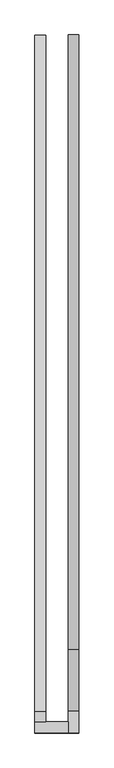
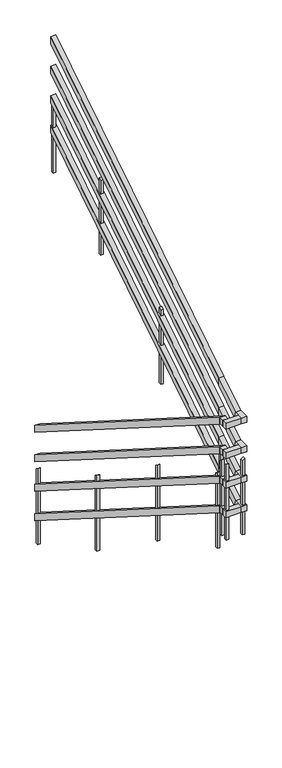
"""IFC4 building model written with IfcOpenShell, lengths in millimetres: railing geometry, RL780-금속재 난간."""

from ifc_helpers import new_model, si_unit, frame, origin, place, context, project, spatial, polyline, outline, extrude, faceted_brep, source, transform, mapped, element, save


def railing_632a0a5e(model_context):
    return source(origin(), model_context, "Body", "SolidModel", [
        faceted_brep([(1249.8430136, 5200.0, 16077.2727273), (1299.8430136, 5200.0, 16077.2727273), (1299.8430136, 5200.0, 16006.2585515), (1249.8430136, 5200.0, 16006.2585515), (1249.8430136, 2120.0, 18027.2727273), (1249.8430136, 2120.0, 17956.2585515), (1299.8430136, 2120.0, 17956.2585515), (1299.8430136, 2120.0, 18027.2727273)], [[[0, 1, 2, 3]], [[4, 5, 6, 7]], [[1, 0, 4, 7]], [[2, 1, 7, 6]], [[3, 2, 6, 5]], [[0, 3, 5, 4]]]),
        faceted_brep([(1249.8430136, 5200.0, 15777.2727273), (1299.8430136, 5200.0, 15777.2727273), (1299.8430136, 5200.0, 15706.2585515), (1249.8430136, 5200.0, 15706.2585515), (1249.8430136, 2120.0, 17727.2727273), (1249.8430136, 2120.0, 17656.2585515), (1299.8430136, 2120.0, 17656.2585515), (1299.8430136, 2120.0, 17727.2727273)], [[[0, 1, 2, 3]], [[4, 5, 6, 7]], [[1, 0, 4, 7]], [[2, 1, 7, 6]], [[3, 2, 6, 5]], [[0, 3, 5, 4]]]),
        faceted_brep([(1249.8430136, 5200.0, 15477.2727273), (1299.8430136, 5200.0, 15477.2727273), (1299.8430136, 5200.0, 15406.2585515), (1249.8430136, 5200.0, 15406.2585515), (1249.8430136, 2120.0, 17427.2727273), (1249.8430136, 2120.0, 17356.2585515), (1299.8430136, 2120.0, 17356.2585515), (1299.8430136, 2120.0, 17427.2727273)], [[[0, 1, 2, 3]], [[4, 5, 6, 7]], [[1, 0, 4, 7]], [[2, 1, 7, 6]], [[3, 2, 6, 5]], [[0, 3, 5, 4]]]),
        faceted_brep([(1249.8430136, 5200.0, 15177.2727273), (1299.8430136, 5200.0, 15177.2727273), (1299.8430136, 5200.0, 15106.2585515), (1249.8430136, 5200.0, 15106.2585515), (1249.8430136, 2120.0, 17127.2727273), (1249.8430136, 2120.0, 17056.2585515), (1299.8430136, 2120.0, 17056.2585515), (1299.8430136, 2120.0, 17127.2727273)], [[[0, 1, 2, 3]], [[4, 5, 6, 7]], [[1, 0, 4, 7]], [[2, 1, 7, 6]], [[3, 2, 6, 5]], [[0, 3, 5, 4]]]),
        faceted_brep([(1249.8430136, 2120.0, 18027.2727273), (1299.8430136, 2120.0, 18027.2727273), (1299.8430136, 2120.0, 17967.2727273), (1249.8430136, 2120.0, 17967.2727273), (1249.8430136, 2071.0869752, 18027.2727273), (1249.8430136, 2071.0869752, 17967.2727273), (1299.8430136, 2071.0869752, 17967.2727273), (1299.8430136, 2071.0869752, 18027.2727273)], [[[0, 1, 2, 3]], [[4, 5, 6, 7]], [[1, 0, 4, 7]], [[2, 1, 7, 6]], [[3, 2, 6, 5]], [[0, 3, 5, 4]]]),
        faceted_brep([(1249.8430136, 2021.0869752, 18027.2727273), (1249.8430136, 2071.0869752, 18027.2727273), (1249.8430136, 2071.0869752, 17967.2727273), (1249.8430136, 2021.0869752, 17967.2727273), (1400.6430136, 2021.0869752, 18027.2727273), (1400.6430136, 2021.0869752, 17967.2727273), (1400.6430136, 2071.0869752, 17967.2727273), (1400.6430136, 2071.0869752, 18027.2727273)], [[[0, 1, 2, 3]], [[4, 5, 6, 7]], [[1, 0, 4, 7]], [[2, 1, 7, 6]], [[3, 2, 6, 5]], [[0, 3, 5, 4]]]),
        faceted_brep([(1450.6430136, 2021.0869752, 18027.2727273), (1400.6430136, 2021.0869752, 18027.2727273), (1400.6430136, 2021.0869752, 17967.2727273), (1450.6430136, 2021.0869752, 17967.2727273), (1450.6430136, 2120.0, 18027.2727273), (1400.6430136, 2120.0, 18027.2727273), (1400.6430136, 2137.3967494, 17967.2727273), (1450.6430136, 2400.0, 18204.5454545), (1450.6430136, 2400.0, 18133.5312788), (1400.6430136, 2400.0, 18133.5312788), (1400.6430136, 2400.0, 18204.5454545), (1450.6430136, 2137.3967494, 17967.2727273)], [[[0, 1, 2, 3]], [[1, 0, 4, 5]], [[2, 1, 5, 6]], [[7, 8, 9, 10]], [[5, 4, 7, 10]], [[6, 5, 10, 9]], [[3, 2, 6, 11]], [[0, 3, 11, 4]], [[11, 6, 9, 8]], [[4, 11, 8, 7]]]),
        faceted_brep([(1450.6430136, 2400.0, 18204.5454545), (1400.6430136, 2400.0, 18204.5454545), (1400.6430136, 2400.0, 18133.5312788), (1450.6430136, 2400.0, 18133.5312788), (1450.6430136, 5200.0, 19977.2727273), (1450.6430136, 5200.0, 19906.2585515), (1400.6430136, 5200.0, 19906.2585515), (1400.6430136, 5200.0, 19977.2727273)], [[[0, 1, 2, 3]], [[4, 5, 6, 7]], [[1, 0, 4, 7]], [[2, 1, 7, 6]], [[3, 2, 6, 5]], [[0, 3, 5, 4]]]),
        faceted_brep([(1249.8430136, 2120.0, 17727.2727273), (1299.8430136, 2120.0, 17727.2727273), (1299.8430136, 2120.0, 17667.2727273), (1249.8430136, 2120.0, 17667.2727273), (1249.8430136, 2071.0869752, 17727.2727273), (1249.8430136, 2071.0869752, 17667.2727273), (1299.8430136, 2071.0869752, 17667.2727273), (1299.8430136, 2071.0869752, 17727.2727273)], [[[0, 1, 2, 3]], [[4, 5, 6, 7]], [[1, 0, 4, 7]], [[2, 1, 7, 6]], [[3, 2, 6, 5]], [[0, 3, 5, 4]]]),
        faceted_brep([(1249.8430136, 2021.0869752, 17727.2727273), (1249.8430136, 2071.0869752, 17727.2727273), (1249.8430136, 2071.0869752, 17667.2727273), (1249.8430136, 2021.0869752, 17667.2727273), (1400.6430136, 2021.0869752, 17727.2727273), (1400.6430136, 2021.0869752, 17667.2727273), (1400.6430136, 2071.0869752, 17667.2727273), (1400.6430136, 2071.0869752, 17727.2727273)], [[[0, 1, 2, 3]], [[4, 5, 6, 7]], [[1, 0, 4, 7]], [[2, 1, 7, 6]], [[3, 2, 6, 5]], [[0, 3, 5, 4]]]),
        faceted_brep([(1450.6430136, 2021.0869752, 17727.2727273), (1400.6430136, 2021.0869752, 17727.2727273), (1400.6430136, 2021.0869752, 17667.2727273), (1450.6430136, 2021.0869752, 17667.2727273), (1450.6430136, 2120.0, 17727.2727273), (1400.6430136, 2120.0, 17727.2727273), (1400.6430136, 2137.3967494, 17667.2727273), (1450.6430136, 2400.0, 17904.5454545), (1450.6430136, 2400.0, 17833.5312788), (1400.6430136, 2400.0, 17833.5312788), (1400.6430136, 2400.0, 17904.5454545), (1450.6430136, 2137.3967494, 17667.2727273)], [[[0, 1, 2, 3]], [[1, 0, 4, 5]], [[2, 1, 5, 6]], [[7, 8, 9, 10]], [[5, 4, 7, 10]], [[6, 5, 10, 9]], [[3, 2, 6, 11]], [[0, 3, 11, 4]], [[11, 6, 9, 8]], [[4, 11, 8, 7]]]),
        faceted_brep([(1450.6430136, 2400.0, 17904.5454545), (1400.6430136, 2400.0, 17904.5454545), (1400.6430136, 2400.0, 17833.5312788), (1450.6430136, 2400.0, 17833.5312788), (1450.6430136, 5200.0, 19677.2727273), (1450.6430136, 5200.0, 19606.2585515), (1400.6430136, 5200.0, 19606.2585515), (1400.6430136, 5200.0, 19677.2727273)], [[[0, 1, 2, 3]], [[4, 5, 6, 7]], [[1, 0, 4, 7]], [[2, 1, 7, 6]], [[3, 2, 6, 5]], [[0, 3, 5, 4]]]),
        faceted_brep([(1249.8430136, 2120.0, 17427.2727273), (1299.8430136, 2120.0, 17427.2727273), (1299.8430136, 2120.0, 17367.2727273), (1249.8430136, 2120.0, 17367.2727273), (1249.8430136, 2071.0869752, 17427.2727273), (1249.8430136, 2071.0869752, 17367.2727273), (1299.8430136, 2071.0869752, 17367.2727273), (1299.8430136, 2071.0869752, 17427.2727273)], [[[0, 1, 2, 3]], [[4, 5, 6, 7]], [[1, 0, 4, 7]], [[2, 1, 7, 6]], [[3, 2, 6, 5]], [[0, 3, 5, 4]]]),
        faceted_brep([(1249.8430136, 2021.0869752, 17427.2727273), (1249.8430136, 2071.0869752, 17427.2727273), (1249.8430136, 2071.0869752, 17367.2727273), (1249.8430136, 2021.0869752, 17367.2727273), (1400.6430136, 2021.0869752, 17427.2727273), (1400.6430136, 2021.0869752, 17367.2727273), (1400.6430136, 2071.0869752, 17367.2727273), (1400.6430136, 2071.0869752, 17427.2727273)], [[[0, 1, 2, 3]], [[4, 5, 6, 7]], [[1, 0, 4, 7]], [[2, 1, 7, 6]], [[3, 2, 6, 5]], [[0, 3, 5, 4]]]),
        faceted_brep([(1450.6430136, 2021.0869752, 17427.2727273), (1400.6430136, 2021.0869752, 17427.2727273), (1400.6430136, 2021.0869752, 17367.2727273), (1450.6430136, 2021.0869752, 17367.2727273), (1450.6430136, 2120.0, 17427.2727273), (1400.6430136, 2120.0, 17427.2727273), (1400.6430136, 2137.3967494, 17367.2727273), (1450.6430136, 2400.0, 17604.5454545), (1450.6430136, 2400.0, 17533.5312788), (1400.6430136, 2400.0, 17533.5312788), (1400.6430136, 2400.0, 17604.5454545), (1450.6430136, 2137.3967494, 17367.2727273)], [[[0, 1, 2, 3]], [[1, 0, 4, 5]], [[2, 1, 5, 6]], [[7, 8, 9, 10]], [[5, 4, 7, 10]], [[6, 5, 10, 9]], [[3, 2, 6, 11]], [[0, 3, 11, 4]], [[11, 6, 9, 8]], [[4, 11, 8, 7]]]),
        faceted_brep([(1450.6430136, 2400.0, 17604.5454545), (1400.6430136, 2400.0, 17604.5454545), (1400.6430136, 2400.0, 17533.5312788), (1450.6430136, 2400.0, 17533.5312788), (1450.6430136, 5200.0, 19377.2727273), (1450.6430136, 5200.0, 19306.2585515), (1400.6430136, 5200.0, 19306.2585515), (1400.6430136, 5200.0, 19377.2727273)], [[[0, 1, 2, 3]], [[4, 5, 6, 7]], [[1, 0, 4, 7]], [[2, 1, 7, 6]], [[3, 2, 6, 5]], [[0, 3, 5, 4]]]),
        faceted_brep([(1249.8430136, 2120.0, 17127.2727273), (1299.8430136, 2120.0, 17127.2727273), (1299.8430136, 2120.0, 17067.2727273), (1249.8430136, 2120.0, 17067.2727273), (1249.8430136, 2071.0869752, 17127.2727273), (1249.8430136, 2071.0869752, 17067.2727273), (1299.8430136, 2071.0869752, 17067.2727273), (1299.8430136, 2071.0869752, 17127.2727273)], [[[0, 1, 2, 3]], [[4, 5, 6, 7]], [[1, 0, 4, 7]], [[2, 1, 7, 6]], [[3, 2, 6, 5]], [[0, 3, 5, 4]]]),
        faceted_brep([(1249.8430136, 2021.0869752, 17127.2727273), (1249.8430136, 2071.0869752, 17127.2727273), (1249.8430136, 2071.0869752, 17067.2727273), (1249.8430136, 2021.0869752, 17067.2727273), (1400.6430136, 2021.0869752, 17127.2727273), (1400.6430136, 2021.0869752, 17067.2727273), (1400.6430136, 2071.0869752, 17067.2727273), (1400.6430136, 2071.0869752, 17127.2727273)], [[[0, 1, 2, 3]], [[4, 5, 6, 7]], [[1, 0, 4, 7]], [[2, 1, 7, 6]], [[3, 2, 6, 5]], [[0, 3, 5, 4]]]),
        faceted_brep([(1450.6430136, 2021.0869752, 17127.2727273), (1400.6430136, 2021.0869752, 17127.2727273), (1400.6430136, 2021.0869752, 17067.2727273), (1450.6430136, 2021.0869752, 17067.2727273), (1450.6430136, 2120.0, 17127.2727273), (1400.6430136, 2120.0, 17127.2727273), (1400.6430136, 2137.3967494, 17067.2727273), (1450.6430136, 2400.0, 17304.5454545), (1450.6430136, 2400.0, 17233.5312788), (1400.6430136, 2400.0, 17233.5312788), (1400.6430136, 2400.0, 17304.5454545), (1450.6430136, 2137.3967494, 17067.2727273)], [[[0, 1, 2, 3]], [[1, 0, 4, 5]], [[2, 1, 5, 6]], [[7, 8, 9, 10]], [[5, 4, 7, 10]], [[6, 5, 10, 9]], [[3, 2, 6, 11]], [[0, 3, 11, 4]], [[11, 6, 9, 8]], [[4, 11, 8, 7]]]),
        faceted_brep([(1450.6430136, 2400.0, 17304.5454545), (1400.6430136, 2400.0, 17304.5454545), (1400.6430136, 2400.0, 17233.5312788), (1450.6430136, 2400.0, 17233.5312788), (1450.6430136, 5200.0, 19077.2727273), (1450.6430136, 5200.0, 19006.2585515), (1400.6430136, 5200.0, 19006.2585515), (1400.6430136, 5200.0, 19077.2727273)], [[[0, 1, 2, 3]], [[4, 5, 6, 7]], [[1, 0, 4, 7]], [[2, 1, 7, 6]], [[3, 2, 6, 5]], [[0, 3, 5, 4]]]),
        extrude(outline(polyline([(4412.5, 19015.4087255), (4412.5, 18245.4545455), (4387.5, 18245.4545455), (4387.5, 18999.5003654), (4412.5, 19015.4087255)])), frame((1413.1430136, 0.0, 0.0), z_axis=(1.0, 0.0, 0.0), x_axis=(0.0, 1.0, 0.0)), (0.0, 0.0, 1.0), 25.0),
        extrude(outline(polyline([(3412.5, 18306.3178164), (3412.5, 17536.3636364), (3387.5, 17536.3636364), (3387.5, 18290.4094564), (3412.5, 18306.3178164)])), frame((1413.1430136, 0.0, 0.0), z_axis=(1.0, 0.0, 0.0), x_axis=(0.0, 1.0, 0.0)), (0.0, 0.0, 1.0), 25.0),
        extrude(outline(polyline([(2212.5, 17404.04582), (2212.5, 16650.0), (2187.5, 16650.0), (2187.5, 17419.95418), (2212.5, 17404.04582)])), frame((1262.3430136, 0.0, 0.0), z_axis=(1.0, 0.0, 0.0), x_axis=(0.0, 1.0, 0.0)), (0.0, 0.0, 1.0), 25.0),
        extrude(outline(polyline([(3212.5, 16872.2276382), (3212.5, 16118.1818182), (3187.5, 16118.1818182), (3187.5, 16888.1359982), (3212.5, 16872.2276382)])), frame((1262.3430136, 0.0, 0.0), z_axis=(1.0, 0.0, 0.0), x_axis=(0.0, 1.0, 0.0)), (0.0, 0.0, 1.0), 25.0),
        extrude(outline(polyline([(4212.5, 16163.1367291), (4212.5, 15409.0909091), (4187.5, 15409.0909091), (4187.5, 16179.0450891), (4212.5, 16163.1367291)])), frame((1262.3430136, 0.0, 0.0), z_axis=(1.0, 0.0, 0.0), x_axis=(0.0, 1.0, 0.0)), (0.0, 0.0, 1.0), 25.0),
        extrude(outline(polyline([(2412.5, 17597.2269073), (2412.5, 16827.2727273), (2387.5, 16827.2727273), (2387.5, 17581.3185473), (2412.5, 17597.2269073)])), frame((1413.1430136, 0.0, 0.0), z_axis=(1.0, 0.0, 0.0), x_axis=(0.0, 1.0, 0.0)), (0.0, 0.0, 1.0), 25.0),
        extrude(outline(polyline([(17581.3185473, 1413.1430136), (16827.2727273, 1413.1430136), (16827.2727273, 1438.1430136), (17597.2269073, 1438.1430136), (17581.3185473, 1413.1430136)])), frame((0.0, 2033.5869752, 0.0), z_axis=(0.0, 1.0, 0.0), x_axis=(0.0, 0.0, 1.0)), (0.0, 0.0, 1.0), 25.0),
        extrude(outline(polyline([(2058.5869752, 17581.3185473), (2058.5869752, 16827.2727273), (2033.5869752, 16827.2727273), (2033.5869752, 17597.2269073), (2058.5869752, 17581.3185473)])), frame((1262.3430136, 0.0, 0.0), z_axis=(1.0, 0.0, 0.0), x_axis=(0.0, 1.0, 0.0)), (0.0, 0.0, 1.0), 25.0),
        extrude(outline(polyline([(2132.5, 17581.3185473), (2132.5, 16827.2727273), (2107.5, 16827.2727273), (2107.5, 17597.2269073), (2132.5, 17581.3185473)])), frame((1262.3430136, 0.0, 0.0), z_axis=(1.0, 0.0, 0.0), x_axis=(0.0, 1.0, 0.0)), (0.0, 0.0, 1.0), 25.0),
        extrude(outline(polyline([(5200.0, 19369.95418), (5200.0, 18600.0), (5175.0, 18600.0), (5175.0, 19354.04582), (5200.0, 19369.95418)])), frame((1413.1430136, 0.0, 0.0), z_axis=(1.0, 0.0, 0.0), x_axis=(0.0, 1.0, 0.0)), (0.0, 0.0, 1.0), 25.0),
        extrude(outline(polyline([(5200.0, 15631.3185473), (5200.0, 14877.2727273), (5175.0, 14877.2727273), (5175.0, 15647.2269073), (5200.0, 15631.3185473)])), frame((1262.3430136, 0.0, 0.0), z_axis=(1.0, 0.0, 0.0), x_axis=(0.0, 1.0, 0.0)), (0.0, 0.0, 1.0), 25.0),
    ])


if __name__ == "__main__":
    model = new_model("IFC4")
    model_context = context("Model", 3, world=origin())
    ifc_project = project(units=[si_unit("LENGTHUNIT", "METRE", prefix="MILLI")], contexts=[model_context])
    site = spatial("IfcSite", under=ifc_project)
    building = spatial("IfcBuilding", under=site)
    placement = place(None, origin())
    railing_shape = railing_632a0a5e(model_context)
    element("IfcRailing", 1, ObjectType="RL780-금속재 난간", at=placement, inside=building, context=model_context, shape_type="MappedRepresentation", body=[
        mapped(railing_shape, transform((0.0, 0.0, 0.0), x_axis=(1.0, 0.0, 0.0), y_axis=(0.0, 1.0, 0.0), z_axis=(0.0, 0.0, 1.0))),
    ])
    save(model, "model.ifc")
